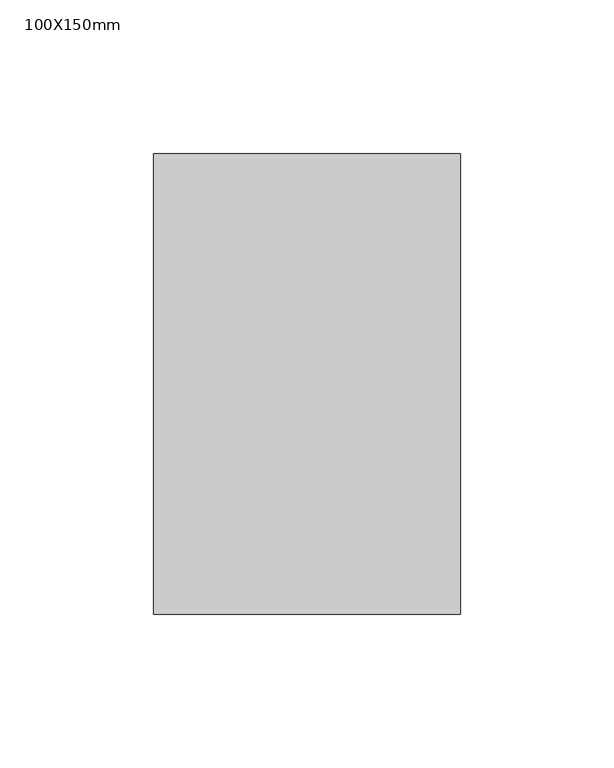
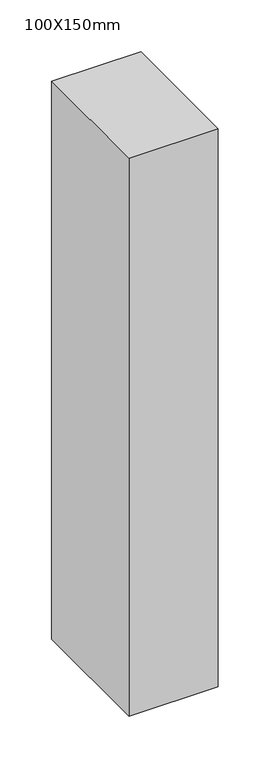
"""IFC4 building model written with IfcOpenShell, lengths in millimetres: member geometry, 矩形竖梃 : 100X150mm."""

import ifcopenshell
import ifcopenshell.guid

model = None  # the IFC model being written
_history = None  # IfcOwnerHistory: only IFC2X3 demands one
_inside = {}  # id of a spatial element -> (the spatial element, [elements in it])
_under = {}  # id of a project, library or spatial element -> (it, [spatial elements below it])
_declared = {}  # id of a project -> (the project, [libraries it declares])
_typed = {}  # id of a type object -> (the type object, [elements of that type])
_made_of = {}  # id of a material, layer set ... -> (it, [elements and type objects made of it])


def new_model(schema):
    """Start an empty IFC model of exactly this schema.

    Asked for "IFC4X3", IfcOpenShell would pick the latest addendum, in which some entities
    have other attributes; the version numbers below select the first issue.
    IFC2X3 requires an IfcOwnerHistory on every rooted entity: one is made here for all.
    """
    global model, _history
    if schema == "IFC4X3":
        model = ifcopenshell.file(schema_version=(4, 3, 0, 0))
    else:
        model = ifcopenshell.file(schema=schema)
    _inside.clear()
    _under.clear()
    _declared.clear()
    _typed.clear()
    _made_of.clear()
    _history = None
    if model.schema == "IFC2X3":
        org = make("IfcOrganization", Name="unknown")
        user = make(
            "IfcPersonAndOrganization",
            ThePerson=make("IfcPerson", FamilyName="unknown"),
            TheOrganization=org,
        )
        app = make(
            "IfcApplication",
            ApplicationDeveloper=org,
            Version="unknown",
            ApplicationFullName="unknown",
            ApplicationIdentifier="unknown",
        )
        _history = make(
            "IfcOwnerHistory",
            OwningUser=user,
            OwningApplication=app,
            ChangeAction="ADDED",
            CreationDate=0,
        )
    return model


def make(cls, **values):
    """One entity of the class cls with the attributes given. An attribute that is None is left unset."""
    return model.create_entity(
        cls, **{name: value for name, value in values.items() if value is not None}
    )


def rooted(cls, **values):
    """An entity with a GlobalId (a new one), such as an element, a storey or a relation."""
    return make(cls, GlobalId=ifcopenshell.guid.new(), OwnerHistory=_history, **values)


def si_unit(unit_type, name, prefix=None):
    """IfcSIUnit, for example si_unit("LENGTHUNIT", "METRE", prefix="MILLI")."""
    return make("IfcSIUnit", UnitType=unit_type, Prefix=prefix, Name=name)


def assignment(units):
    """IfcUnitAssignment: the units of a project."""
    return None if units is None else make("IfcUnitAssignment", Units=units)


def point(xyz):
    """IfcCartesianPoint."""
    return None if xyz is None else make("IfcCartesianPoint", Coordinates=xyz)


def direction(xyz):
    """IfcDirection."""
    return None if xyz is None else make("IfcDirection", DirectionRatios=xyz)


def frame(location, z_axis=None, x_axis=None):
    """IfcAxis2Placement3D, a coordinate frame: its origin and axes. An axis left out is left unset."""
    return make(
        "IfcAxis2Placement3D",
        Location=point(location),
        Axis=direction(z_axis),
        RefDirection=direction(x_axis),
    )


def origin():
    """The frame at (0, 0, 0) with its axes left unset."""
    return frame((0.0, 0.0, 0.0))


def place(relative_to, where):
    """IfcLocalPlacement: puts the frame where relative to a parent placement (None: the world)."""
    return make(
        "IfcLocalPlacement", PlacementRelTo=relative_to, RelativePlacement=where
    )


def context(
    kind, dimensions, precision=None, world=None, true_north=None, identifier=None
):
    """IfcGeometricRepresentationContext, for example the 3D "Model" context."""
    return make(
        "IfcGeometricRepresentationContext",
        ContextIdentifier=identifier,
        ContextType=kind,
        CoordinateSpaceDimension=dimensions,
        Precision=precision,
        WorldCoordinateSystem=world,
        TrueNorth=true_north,
    )


def project(units=None, contexts=None):
    """IfcProject with its units and contexts."""
    return rooted(
        "IfcProject",
        Name="project",
        RepresentationContexts=contexts,
        UnitsInContext=assignment(units),
    )


def spatial(cls, under=None, at=None, **own):
    """A site, building, storey or space (cls), placed at a placement, below another one or the project."""
    s = rooted(cls, ObjectPlacement=at, **own)
    if under is not None:
        _under.setdefault(under.id(), (under, []))[1].append(s)
    return s


def polyline(points):
    """IfcPolyline through the points."""
    return make("IfcPolyline", Points=[point(p) for p in points])


def outline(outer, holes=None, kind="AREA"):
    """IfcArbitraryClosedProfileDef: a profile drawn as a closed curve; with holes, ...WithVoids."""
    if holes is None:
        return make("IfcArbitraryClosedProfileDef", ProfileType=kind, OuterCurve=outer)
    return make(
        "IfcArbitraryProfileDefWithVoids",
        ProfileType=kind,
        OuterCurve=outer,
        InnerCurves=holes,
    )


def extrude(swept, where, along, depth):
    """IfcExtrudedAreaSolid: the profile swept, set in the frame where, extruded along a direction by depth."""
    return make(
        "IfcExtrudedAreaSolid",
        SweptArea=swept,
        Position=where,
        ExtrudedDirection=direction(along),
        Depth=depth,
    )


def shape(context_of_items, identifier, shape_type, items):
    """IfcShapeRepresentation: the items that make up one representation, for example the "Body"."""
    return make(
        "IfcShapeRepresentation",
        ContextOfItems=context_of_items,
        RepresentationIdentifier=identifier,
        RepresentationType=shape_type,
        Items=items,
    )


def source(mapping_origin, context_of_items, identifier, shape_type, items):
    """IfcRepresentationMap: a shape defined once, which mapped items show again and again."""
    return make(
        "IfcRepresentationMap",
        MappingOrigin=mapping_origin,
        MappedRepresentation=shape(context_of_items, identifier, shape_type, items),
    )


def transform(
    local_origin,
    x_axis=None,
    y_axis=None,
    z_axis=None,
    scale=None,
    scale2=None,
    scale3=None,
    uniform=True,
):
    """IfcCartesianTransformationOperator3D, or its non-uniform kind. x_axis, y_axis, z_axis: its Axis1, 2, 3."""
    if uniform:
        return make(
            "IfcCartesianTransformationOperator3D",
            Axis1=direction(x_axis),
            Axis2=direction(y_axis),
            LocalOrigin=point(local_origin),
            Scale=scale,
            Axis3=direction(z_axis),
        )
    return make(
        "IfcCartesianTransformationOperator3DnonUniform",
        Axis1=direction(x_axis),
        Axis2=direction(y_axis),
        LocalOrigin=point(local_origin),
        Scale=scale,
        Axis3=direction(z_axis),
        Scale2=scale2,
        Scale3=scale3,
    )


def mapped(mapping_source, mapping_target):
    """IfcMappedItem: shows the shape of a source again, moved by a transform."""
    return make(
        "IfcMappedItem", MappingSource=mapping_source, MappingTarget=mapping_target
    )


def made_of(thing, what):
    """Note that an element or type object is made of a material, layer set ...; save() writes the relation."""
    if what is not None:
        _made_of.setdefault(what.id(), (what, []))[1].append(thing)
    return thing


def element(
    cls,
    number,
    at=None,
    inside=None,
    cuts=None,
    type_object=None,
    material=None,
    context=None,
    identifier="Body",
    shape_type=None,
    held_by="IfcProductDefinitionShape",
    body=None,
    shapes=None,
    **own,
):
    """One element of the class cls, such as IfcWall. Its Tag is "e" and its number.

    at: its placement. inside: the storey or other place that contains it. cuts: it is an
    opening in that element (IfcRelVoidsElement). A single representation is given by context,
    identifier, shape_type and body (its items); several are given by shapes. held_by: the class
    of the entity that holds the representations. save() writes the other relations.
    """
    e = rooted(cls, Tag="e%d" % number, ObjectPlacement=at, **own)
    if body is not None:
        shapes = [shape(context, identifier, shape_type, body)]
    if shapes is not None:
        e.Representation = make(held_by, Representations=shapes)
    if inside is not None:
        _inside.setdefault(inside.id(), (inside, []))[1].append(e)
    if cuts is not None:
        rooted(
            "IfcRelVoidsElement", RelatingBuildingElement=cuts, RelatedOpeningElement=e
        )
    if type_object is not None:
        _typed.setdefault(type_object.id(), (type_object, []))[1].append(e)
    return made_of(e, material)


def aggregate(whole, parts):
    """IfcRelAggregates: a whole, such as a stair, and the parts it consists of."""
    return rooted("IfcRelAggregates", RelatingObject=whole, RelatedObjects=parts)


def save(model, path):
    """Write the relations noted so far, then the file.

    IfcRelAggregates (storeys below a building ...), IfcRelContainedInSpatialStructure (elements
    in a storey), IfcRelDefinesByType, IfcRelAssociatesMaterial and IfcRelDeclares: one each for
    every whole, place, type object, material and project.
    """
    for whole, parts in _under.values():
        aggregate(whole, parts)
    for where, things in _inside.values():
        rooted(
            "IfcRelContainedInSpatialStructure",
            RelatedElements=things,
            RelatingStructure=where,
        )
    for kind, things in _typed.values():
        rooted("IfcRelDefinesByType", RelatedObjects=things, RelatingType=kind)
    for what, things in _made_of.values():
        rooted("IfcRelAssociatesMaterial", RelatedObjects=things, RelatingMaterial=what)
    for by, libraries in _declared.values():
        rooted("IfcRelDeclares", RelatingContext=by, RelatedDefinitions=libraries)
    model.write(path)


def member_100x150mm_9d00d28b(model_context):
    return source(origin(), model_context, "Body", "SweptSolid", [
        extrude(outline(polyline([(0.0, 75.0), (0.0, -75.0), (-100.0, -75.0), (-100.0, 75.0), (0.0, 75.0)])), frame((0.0, 0.0, -660.0), z_axis=(0.0, 0.0, 1.0), x_axis=(1.0, 0.0, 0.0)), (0.0, 0.0, 1.0), 660.0),
    ])


if __name__ == "__main__":
    model = new_model("IFC4")
    model_context = context("Model", 3, world=origin())
    ifc_project = project(units=[si_unit("LENGTHUNIT", "METRE", prefix="MILLI")], contexts=[model_context])
    site = spatial("IfcSite", under=ifc_project)
    building = spatial("IfcBuilding", under=site)
    placement = place(None, origin())
    member_100x150mm_shape = member_100x150mm_9d00d28b(model_context)
    element("IfcMember", 1, ObjectType="矩形竖梃 : 100X150mm", at=placement, inside=building, context=model_context, shape_type="MappedRepresentation", body=[
        mapped(member_100x150mm_shape, transform((0.0, 0.0, 0.0), x_axis=(1.0, 0.0, 0.0), y_axis=(0.0, 1.0, 0.0), z_axis=(0.0, 0.0, 1.0))),
    ])
    save(model, "model.ifc")
